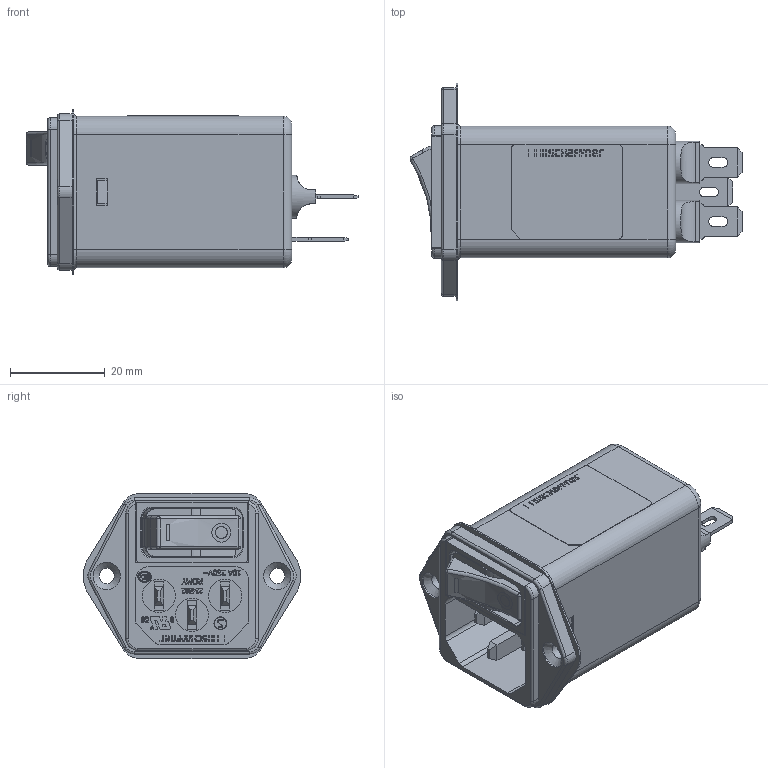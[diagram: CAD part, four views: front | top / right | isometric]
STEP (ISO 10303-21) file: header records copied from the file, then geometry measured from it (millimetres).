
FILE_DESCRIPTION(/* description */ (''),/* implementation_level */ '2;1');
FILE_NAME(/* name */ 'C:\SapWorkDir\Inventor\P01\ConvertTempPath\1005962_IPT_000.ipt.stp',/* time_stamp */ '2018-11-28T15:35:58+07:00',/* author */ ('Eakchai.Yodchai'),/* organization */ ('Schaffner Thailand Ltd.'),/* preprocessor_version */ 'ST-DEVELOPER v16.5',/* originating_system */ 'Autodesk Inventor 2017',/* authorisation */ '');
FILE_SCHEMA (('AUTOMOTIVE_DESIGN { 1 0 10303 214 3 1 1 }'));
Products named in the file (1): 1005962_IPT_000
Bounding box: 70.12 x 45.96 x 35 mm (x, y, z)
Volume: 39620.3 mm3; surface area: 17248.4 mm2
Topology: 1 solids, 10 shells, 2922 faces, 8260 edges, 5459 vertices
Faces by surface type: plane 2399, bspline 294, cylinder 183, torus 40, sphere 4, cone 2
Full cylindrical faces by diameter (mm): 0.43 x1, 0.482 x1, 2.481 x1, 2.5 x3, 2.55 x2, 2.756 x1, 2.8 x1, 3.2 x2, 4 x3, 5.8 x2, 7 x3, 9 x2, 9.5 x2
Entity records: 98065 total; most frequent: CARTESIAN_POINT 21062, ORIENTED_EDGE 16454, DIRECTION 13418, EDGE_CURVE 8225, LINE 7160, VECTOR 7160, VERTEX_POINT 5450, AXIS2_PLACEMENT_3D 3129
